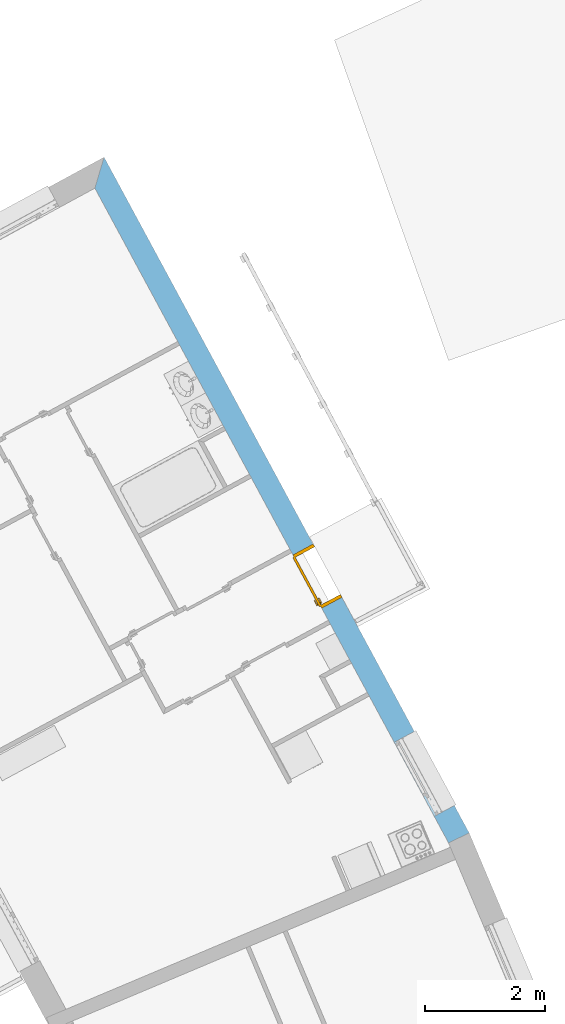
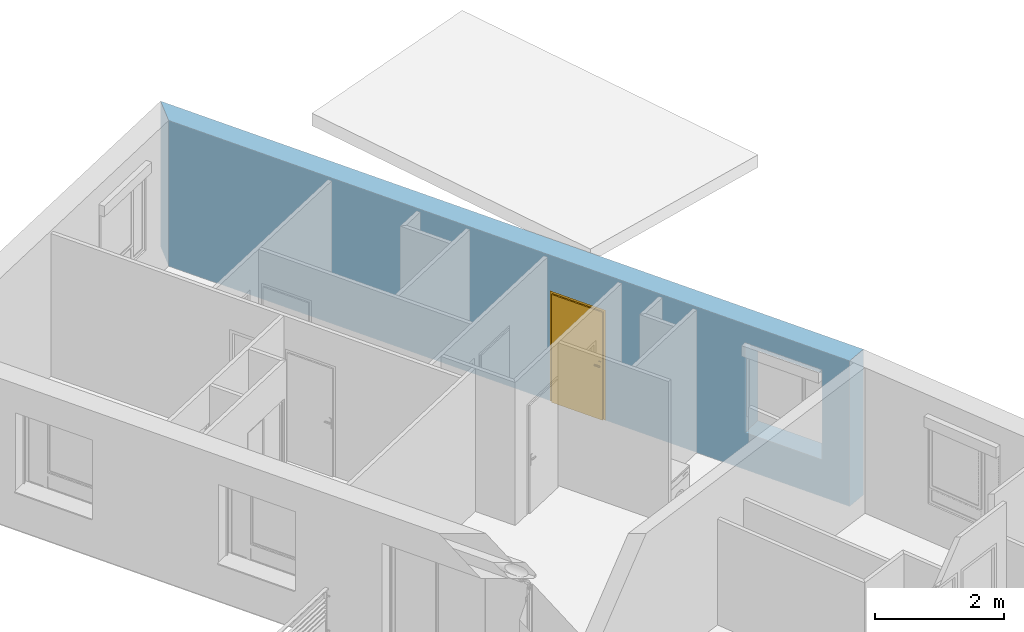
# One storey, part 58 of 121: 1 door, 2 openings, plus 1 element that does not belong to this part.
"""IFC2X3 building model written with IfcOpenShell, lengths in metres."""

from ifc_helpers import new_model, entity, si_unit, converted_unit, derived_unit, money_unit, direction, frame, origin_with_axes, origin_2d_with_axis, place, context, subcontext, project, spatial, polyline, rectangle, outline, extrude, faceted_brep, source, transform, mapped, material, layer, layer_set, layer_usage, type_object, element, fill, save


model = new_model("IFC2X3")

# Units and contexts
model_context = context("Model", 3, precision=1e-05, world=origin_with_axes(), true_north=direction((0.0, 1.0)))
body_context = subcontext(model_context, "Body", "Model", "MODEL_VIEW")
ifc_project = project(units=[si_unit("LENGTHUNIT", "METRE"), si_unit("AREAUNIT", "SQUARE_METRE"), si_unit("VOLUMEUNIT", "CUBIC_METRE"), converted_unit("PLANEANGLEUNIT", "DEGREE", entity("IfcPlaneAngleMeasure", 0.0174532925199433), si_unit("PLANEANGLEUNIT", "RADIAN"), dimensions=[0, 0, 0, 0, 0, 0, 0]), money_unit("CHF"), converted_unit("TIMEUNIT", "Year", entity("IfcTimeMeasure", 31557600.0), si_unit("TIMEUNIT", "SECOND"), dimensions=[0, 0, 1, 0, 0, 0, 0]), si_unit("MASSUNIT", "GRAM", prefix="KILO"), si_unit("THERMODYNAMICTEMPERATUREUNIT", "DEGREE_CELSIUS"), si_unit("LUMINOUSINTENSITYUNIT", "LUMEN"), si_unit("ENERGYUNIT", "JOULE", prefix="MEGA"), derived_unit("THERMALCONDUCTANCEUNIT", [(si_unit("POWERUNIT", "WATT"), 1), (si_unit("LENGTHUNIT", "METRE"), -1), (si_unit("THERMODYNAMICTEMPERATUREUNIT", "KELVIN"), -1)]), derived_unit("SPECIFICHEATCAPACITYUNIT", [(si_unit("ENERGYUNIT", "JOULE"), 1), (si_unit("MASSUNIT", "GRAM", prefix="KILO"), -1), (si_unit("THERMODYNAMICTEMPERATUREUNIT", "KELVIN"), -1)]), derived_unit("MASSDENSITYUNIT", [(si_unit("MASSUNIT", "GRAM", prefix="KILO"), 1), (si_unit("VOLUMEUNIT", "CUBIC_METRE"), -1)])], contexts=[model_context])

# Site, building, storey
site_placement = place(None, origin_with_axes())
site = spatial("IfcSite", under=ifc_project, at=site_placement, Name="Site", CompositionType="ELEMENT")
building_placement = place(site_placement, origin_with_axes())
building = spatial("IfcBuilding", under=site, at=building_placement, Name="Bâtiment", CompositionType="ELEMENT")
storey_placement = place(building_placement, frame((0.0, 0.0, 2.75), z_axis=(0.0, 0.0, 1.0), x_axis=(1.0, 0.0, 0.0)))
storey = spatial("IfcBuildingStorey", under=building, at=storey_placement, Name="Etage 1", CompositionType="ELEMENT", Elevation=2.75)

# Wall, openings, door
ifc_material_1 = material(Name="Parpaing 312445824")
ifc_layer_1 = layer(ifc_material_1, 0.22, ventilated="UNKNOWN")
ifc_material_2 = material(Name="Isolant styromousse 301821074")
ifc_layer_2 = layer(ifc_material_2, 0.16, ventilated="UNKNOWN")
ifc_layer_set = layer_set([ifc_layer_1, ifc_layer_2], Name="isol int 22+16 0836643197")
ifc_layer_usage = layer_usage(ifc_layer_set, "AXIS2", "NEGATIVE", 0.0)
wall_type = type_object("IfcWallType", Name="isol int 22+16 0836643197 380", PredefinedType="NOTDEFINED")
wall_placement = place(storey_placement, frame((9561.285709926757, -1024.008620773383, 57.7), z_axis=(0.0, 0.0, 1.0), x_axis=(0.4753186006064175, -0.8798137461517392, 0.0)))
wall = element("IfcWallStandardCase", 1, at=wall_placement, inside=storey, type_object=wall_type, material=ifc_layer_usage, Name="Mur-113", context=body_context, shape_type="SweptSolid", body=[
    extrude(outline(polyline([(0.3809761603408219, -0.3800000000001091), (12.75104633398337, -0.3799999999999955), (12.76934803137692, 0.0), (0.0, 0.0), (0.3809761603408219, -0.3800000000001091)])), origin_with_axes(), (0.0, 0.0, 1.0), 2.75),
])
opening_1_placement = place(wall_placement, frame((11.55059904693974, 0.0, 0.7000000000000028), z_axis=(0.0, 0.0, 1.0), x_axis=(1.0, 0.0, 0.0)))
element("IfcOpeningElement", 2, at=opening_1_placement, cuts=wall, Name="Fen-045", context=body_context, shape_type="Brep", body=[
    faceted_brep([(-0.6999999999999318, -0.2199999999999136, 1.5), (0.7000000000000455, -0.2199999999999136, 1.5), (0.7000000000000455, 5.341037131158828, 1.5), (-0.7000000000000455, 5.341037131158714, 1.5), (-0.6999999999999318, -0.2199999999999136, 1.700000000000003), (0.7000000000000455, -0.2199999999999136, 1.700000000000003), (0.7000000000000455, -0.3000000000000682, 1.5), (0.7000000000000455, -0.3000000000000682, 0.0), (0.7000000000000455, 5.341037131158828, 0.0), (-0.7000000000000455, 5.341037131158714, 0.0), (-0.7000000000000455, -0.3000000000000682, 1.5), (-0.7000000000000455, -0.3000000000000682, 0.0), (-0.7000000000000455, -0.4800000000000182, 1.5), (-0.7000000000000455, -0.4800000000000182, 1.700000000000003), (0.7000000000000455, -0.4800000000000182, 1.700000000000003), (0.7000000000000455, -0.4800000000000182, 1.5), (0.7000000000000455, -5.721037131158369, 1.5), (0.7000000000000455, -5.721037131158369, 0.0), (-0.7000000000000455, -5.721037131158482, 0.0), (-0.7000000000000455, -5.721037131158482, 1.5)], [[[0, 1, 2, 3]], [[1, 0, 4, 5]], [[1, 6, 7, 8, 2]], [[2, 8, 9, 3]], [[10, 0, 3, 9, 11]], [[0, 10, 12, 13, 4]], [[14, 5, 4, 13]], [[6, 1, 5, 14, 15]], [[6, 15, 16, 17, 7]], [[7, 11, 9, 8]], [[12, 10, 11, 18, 19]], [[12, 15, 14, 13]], [[15, 12, 19, 16]], [[19, 18, 17, 16]], [[11, 7, 17, 18]]]),
])
opening_2_placement = place(wall_placement, frame((7.813459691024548, 0.0, 0.0), z_axis=(0.0, 0.0, 1.0), x_axis=(1.0, 0.0, 0.0)))
opening_2 = element("IfcOpeningElement", 3, at=opening_2_placement, cuts=wall, Name="Por-299", context=body_context, shape_type="SweptSolid", body=[
    extrude(rectangle(XDim=1.01000001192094, YDim=2.079999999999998, at=origin_2d_with_axis()), frame((-5.960544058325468e-09, 0.3799999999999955, 1.039999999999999), z_axis=(0.0, -1.0, 0.0), x_axis=(-1.0, 0.0, 0.0)), (0.0, 0.0, 1.0), 0.76),
])
door_style = type_object("IfcDoorStyle", Name="Porte_1v", ConstructionType="NOTDEFINED", OperationType="NOTDEFINED", ParameterTakesPrecedence=False, Sizeable=False)
shared_shape = source(origin_with_axes(), body_context, "Body", "Brep", [
    faceted_brep([(0.5049999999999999, 0.0, 0.0), (0.465, 0.0, 0.0), (0.4649999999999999, 0.0, 2.04), (-0.4649999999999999, 0.0, 2.04), (-0.465, 0.0, 0.0), (-0.5049999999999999, 0.0, 0.0), (-0.5049999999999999, 0.0, 2.08), (0.5049999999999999, 0.0, 2.08), (0.5049999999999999, -0.38, 0.0), (0.45, -0.3799999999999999, 0.0), (0.45, -0.01500000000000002, 0.0), (0.465, -0.01500000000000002, 0.0), (0.4649999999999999, -0.01500000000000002, 2.04), (-0.4649999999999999, -0.01499999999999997, 2.04), (-0.465, -0.01499999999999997, 0.0), (-0.45, -0.01499999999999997, 0.0), (-0.45, -0.3799999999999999, 0.0), (-0.5049999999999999, -0.3799999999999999, 0.0), (-0.5049999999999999, -0.3799999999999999, 2.08), (0.5049999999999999, -0.38, 2.08), (-0.45, -0.3799999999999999, 2.025), (0.45, -0.3799999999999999, 2.025), (0.45, -0.01500000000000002, 2.025), (-0.45, -0.01499999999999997, 2.025)], [[[0, 1, 2, 3, 4, 5, 6, 7]], [[0, 8, 9, 10, 11, 1]], [[1, 11, 12, 2]], [[2, 12, 13, 3]], [[3, 13, 14, 4]], [[5, 4, 14, 15, 16, 17]], [[18, 6, 5, 17]], [[19, 7, 6, 18]], [[8, 0, 7, 19]], [[9, 8, 19, 18, 17, 16, 20, 21]], [[10, 9, 21, 22]], [[11, 10, 22, 23, 15, 14, 13, 12]], [[23, 20, 16, 15]], [[22, 21, 20, 23]]]),
    faceted_brep([(-0.4, -0.01499999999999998, 0.9), (-0.4399999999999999, -0.01499999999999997, 0.9), (-0.4399999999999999, -0.01499999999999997, 1.1), (-0.4, -0.01499999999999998, 1.1), (-0.4, -0.02499999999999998, 0.9), (-0.4399999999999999, -0.02499999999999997, 0.9), (-0.4399999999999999, -0.02499999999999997, 1.1), (-0.4, -0.02499999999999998, 1.1)], [[[0, 1, 2, 3]], [[1, 0, 4, 5]], [[2, 1, 5, 6]], [[3, 2, 6, 7]], [[0, 3, 7, 4]], [[5, 4, 7, 6]]]),
    faceted_brep([(-0.3299999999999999, -0.02499999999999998, 1.0), (-0.4299999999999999, -0.02499999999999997, 1.0), (-0.4299999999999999, -0.02499999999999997, 1.02), (-0.3299999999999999, -0.02499999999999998, 1.02), (-0.3299999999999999, -0.04499999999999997, 1.0), (-0.4299999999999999, -0.04499999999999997, 1.0), (-0.4299999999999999, -0.04499999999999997, 1.02), (-0.3299999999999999, -0.04499999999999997, 1.02)], [[[0, 1, 2, 3]], [[1, 0, 4, 5]], [[2, 1, 5, 6]], [[3, 2, 6, 7]], [[0, 3, 7, 4]], [[5, 4, 7, 6]]]),
    faceted_brep([(-0.4, 0.03500000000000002, 0.9), (-0.4399999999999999, 0.03500000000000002, 0.9), (-0.4399999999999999, 0.03500000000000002, 1.1), (-0.4, 0.03500000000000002, 1.1), (-0.4, 0.02500000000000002, 0.9), (-0.4399999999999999, 0.02500000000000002, 0.9), (-0.4399999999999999, 0.02500000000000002, 1.1), (-0.4, 0.02500000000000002, 1.1)], [[[0, 1, 2, 3]], [[1, 0, 4, 5]], [[2, 1, 5, 6]], [[3, 2, 6, 7]], [[0, 3, 7, 4]], [[5, 4, 7, 6]]]),
    faceted_brep([(-0.3299999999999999, 0.05500000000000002, 1.0), (-0.4299999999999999, 0.05500000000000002, 1.0), (-0.4299999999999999, 0.05500000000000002, 1.02), (-0.3299999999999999, 0.05500000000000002, 1.02), (-0.3299999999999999, 0.03500000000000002, 1.0), (-0.4299999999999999, 0.03500000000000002, 1.0), (-0.4299999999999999, 0.03500000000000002, 1.02), (-0.3299999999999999, 0.03500000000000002, 1.02)], [[[0, 1, 2, 3]], [[1, 0, 4, 5]], [[2, 1, 5, 6]], [[3, 2, 6, 7]], [[0, 3, 7, 4]], [[5, 4, 7, 6]]]),
    faceted_brep([(-0.465, 0.02500000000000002, 0.0), (0.465, 0.02499999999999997, 0.0), (0.465, -0.01500000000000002, 0.0), (-0.465, -0.01499999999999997, 0.0), (-0.465, 0.02500000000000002, 2.04), (0.465, 0.02499999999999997, 2.04), (0.465, -0.01500000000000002, 2.04), (-0.465, -0.01499999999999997, 2.04)], [[[0, 1, 2, 3]], [[0, 4, 5, 1]], [[1, 5, 6, 2]], [[3, 2, 6, 7]], [[4, 0, 3, 7]], [[5, 4, 7, 6]]]),
])
door_placement = place(opening_2_placement, frame((0.4650000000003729, 0.0, 0.0), z_axis=(0.0, 0.0, 1.0), x_axis=(-1.0, 0.0, 0.0)))
door = element("IfcDoor", 4, at=door_placement, inside=storey, type_object=door_style, Name="Por-299", OverallHeight=2.04, OverallWidth=0.93, context=body_context, shape_type="MappedRepresentation", body=[
    mapped(shared_shape, transform((0.4650000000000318, 0.3799999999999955, 0.0))),
])
fill(opening_2, door)

save(model, "model.ifc")
